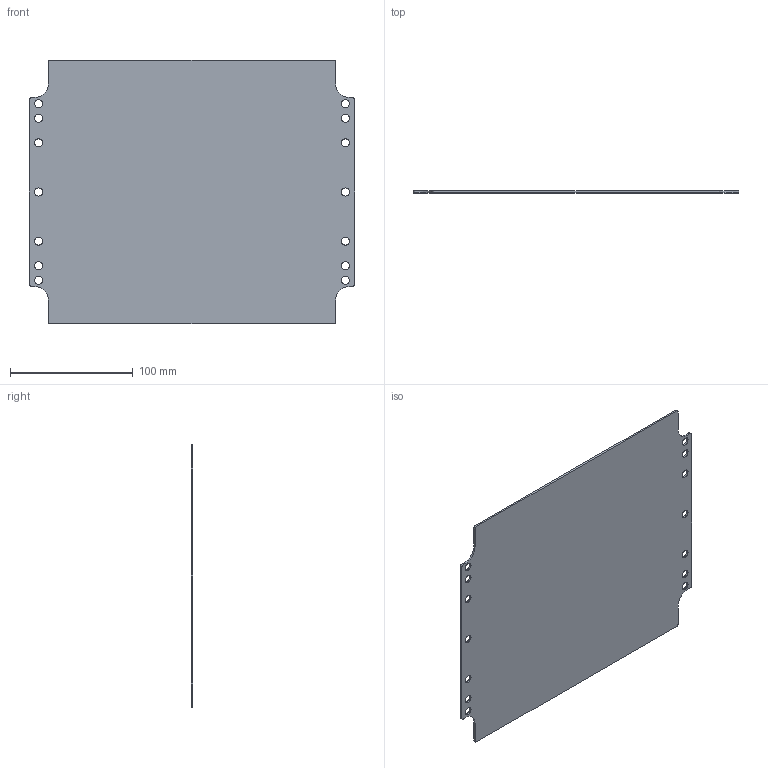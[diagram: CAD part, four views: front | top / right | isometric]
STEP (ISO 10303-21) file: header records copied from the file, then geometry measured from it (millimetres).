
FILE_DESCRIPTION(/* description */ (''),/* implementation_level */ '2;1');
FILE_NAME(/* name */ '1590Z233 PL.stp',/* time_stamp */ '2025-05-26T11:00:32-04:00',/* author */ ('mbeerman'),/* organization */ (''),/* preprocessor_version */ 'ST-DEVELOPER v20',/* originating_system */ 'Autodesk Inventor 2024',/* authorisation */ '');
FILE_SCHEMA (('AUTOMOTIVE_DESIGN { 1 0 10303 214 3 1 1 }'));
Length unit declared in the file: millimetre
Products named in the file (1): Part4
Bounding box: 265 x 1.5 x 215 mm (x, y, z)
Volume: 82053 mm3; surface area: 111240.9 mm2
Topology: 1 solids, 1 shells, 40 faces, 114 edges, 76 vertices
Faces by surface type: cylinder 26, plane 14
Full cylindrical faces by diameter (mm): 6.6 x14
Entity records: 1429 total; most frequent: DIRECTION 248, CARTESIAN_POINT 231, ORIENTED_EDGE 228, EDGE_CURVE 114, AXIS2_PLACEMENT_3D 93, VERTEX_POINT 76, EDGE_LOOP 68, LINE 62
